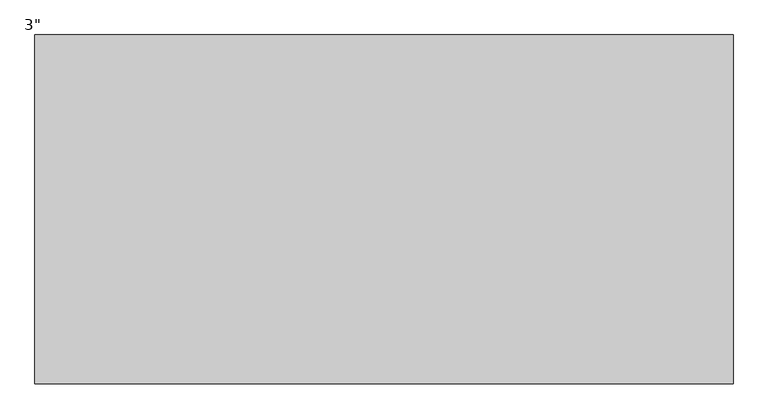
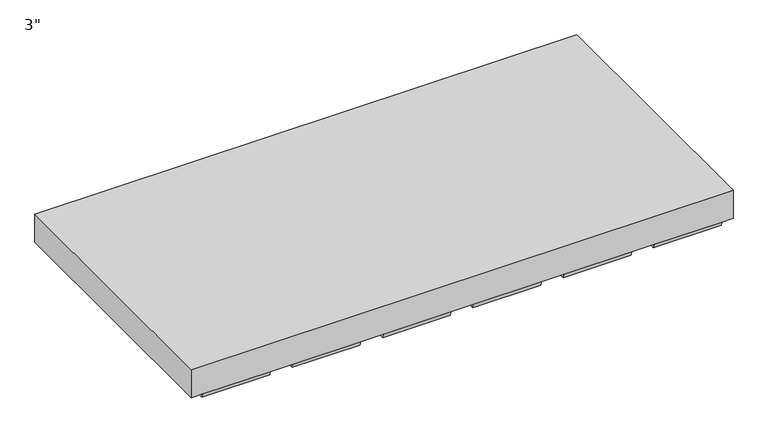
"""IFC4 building model written with IfcOpenShell, lengths in millimetres: proxy geometry."""

from ifc_helpers import new_model, si_unit, origin, place, context, project, spatial, faceted_brep, source, transform, mapped, element, save


def proxy_215900e5(model_context):
    return source(origin(), model_context, "Body", "Brep", [
        faceted_brep([(177.8, 302.2477839, 0.0), (177.8, -302.2477839, 0.0), (25.4, -302.2477839, 0.0), (25.4, 302.2477839, 0.0), (584.2, 302.2477839, 0.0), (584.2, -302.2477839, 0.0), (431.8, -302.2477839, 0.0), (431.8, 302.2477839, 0.0), (381.0, 302.2477839, 0.0), (381.0, -302.2477839, 0.0), (228.6, -302.2477839, 0.0), (228.6, 302.2477839, 0.0), (-25.4, 302.2477839, 0.0), (-25.4, -302.2477839, 0.0), (-177.8, -302.2477839, 0.0), (-177.8, 302.2477839, 0.0), (-228.6, 302.2477839, 0.0), (-228.6, -302.2477839, 0.0), (-381.0, -302.2477839, 0.0), (-381.0, 302.2477839, 0.0), (-431.8, 302.2477839, 0.0), (-431.8, -302.2477839, 0.0), (-584.2, -302.2477839, 0.0), (-584.2, 302.2477839, 0.0), (431.8, -304.8, 9.525), (431.8, 304.8, 9.525), (584.2, 304.8, 9.525), (584.2, -304.8, 9.525), (-609.6, -304.8, 76.2), (609.6, -304.8, 76.2), (609.6, 304.8, 76.2), (-609.6, 304.8, 76.2), (-609.6, -304.8, 9.525), (-609.6, 304.8, 9.525), (-602.7262256, 304.8, 9.525), (-584.2, 304.8, 9.525), (-584.2, -304.8, 9.525), (-602.7262256, -304.8, 9.525), (609.6, 304.8, 9.525), (609.6, -304.8, 9.525), (381.0, -304.8, 9.525), (381.0, 304.8, 9.525), (228.6, -304.8, 9.525), (177.8, -304.8, 9.525), (177.8, 304.8, 9.525), (228.6, 304.8, 9.525), (25.4, -304.8, 9.525), (-25.4, -304.8, 9.525), (-25.4, 304.8, 9.525), (25.4, 304.8, 9.525), (-177.8, -304.8, 9.525), (-228.6, -304.8, 9.525), (-228.6, 304.8, 9.525), (-177.8, 304.8, 9.525), (-381.0, -304.8, 9.525), (-431.8, -304.8, 9.525), (-431.8, 304.8, 9.525), (-381.0, 304.8, 9.525)], [[[0, 1, 2, 3]], [[4, 5, 6, 7]], [[8, 9, 10, 11]], [[12, 13, 14, 15]], [[16, 17, 18, 19]], [[20, 21, 22, 23]], [[24, 25, 7, 6]], [[26, 27, 5, 4]], [[28, 29, 30, 31]], [[32, 33, 34, 35, 36, 37]], [[38, 39, 27, 26]], [[24, 40, 41, 25]], [[42, 43, 44, 45]], [[46, 47, 48, 49]], [[50, 51, 52, 53]], [[54, 55, 56, 57]], [[30, 29, 39, 38]], [[28, 31, 33, 32]], [[42, 45, 11, 10]], [[41, 40, 9, 8]], [[46, 49, 3, 2]], [[44, 43, 1, 0]], [[50, 53, 15, 14]], [[48, 47, 13, 12]], [[54, 57, 19, 18]], [[52, 51, 17, 16]], [[36, 35, 23, 22]], [[56, 55, 21, 20]], [[29, 28, 32, 37, 36, 55, 54, 51, 50, 47, 46, 43, 42, 40, 24, 27, 39]], [[31, 30, 38, 26, 25, 41, 45, 44, 49, 48, 53, 52, 57, 56, 35, 34, 33]], [[0, 3, 49, 44]], [[4, 7, 25, 26]], [[8, 11, 45, 41]], [[12, 15, 53, 48]], [[16, 19, 57, 52]], [[20, 23, 35, 56]], [[2, 1, 43, 46]], [[6, 5, 27, 24]], [[10, 9, 40, 42]], [[14, 13, 47, 50]], [[18, 17, 51, 54]], [[22, 21, 55, 36]]]),
    ])


if __name__ == "__main__":
    model = new_model("IFC4")
    model_context = context("Model", 3, world=origin())
    ifc_project = project(units=[si_unit("LENGTHUNIT", "METRE", prefix="MILLI")], contexts=[model_context])
    site = spatial("IfcSite", under=ifc_project)
    building = spatial("IfcBuilding", under=site)
    placement = place(None, origin())
    proxy_shape = proxy_215900e5(model_context)
    element("IfcBuildingElementProxy", 1, Name="Durabond Generic Model Insulite Select Extruded Insulation Board : 3\"", ObjectType="Durabond Generic Model Insulite Select Extruded Insulation Board : 3\"", at=placement, inside=building, context=model_context, shape_type="MappedRepresentation", body=[
        mapped(proxy_shape, transform((0.0, 0.0, 0.0), x_axis=(1.0, 0.0, 0.0), y_axis=(0.0, 1.0, 0.0), z_axis=(0.0, 0.0, 1.0))),
    ])
    save(model, "model.ifc")
